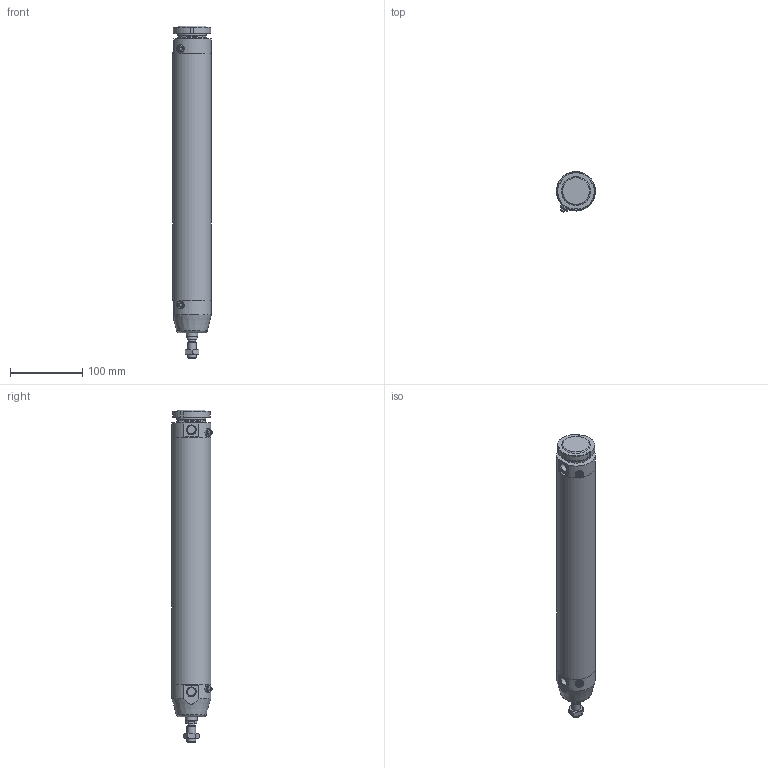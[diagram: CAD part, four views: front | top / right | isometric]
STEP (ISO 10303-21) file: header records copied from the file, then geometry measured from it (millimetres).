
FILE_DESCRIPTION(/* description */ (''),/* implementation_level */ '2;1');
FILE_NAME(/* name */ 'I:\Area Tecnica\Documenti\A-Manieri\_Inventor\12X\12X#B_###_####_#_#\12XBB_050_0300_#_#.stp',/* time_stamp */ '2015-04-28T14:29:12+02:00',/* author */ ('maniean1'),/* organization */ ('Pneumax S.p.A.'),/* preprocessor_version */ 'ST-DEVELOPER v15.2',/* originating_system */ 'Autodesk Inventor 2014',/* authorisation */ '');
FILE_SCHEMA (('AUTOMOTIVE_DESIGN { 1 0 10303 214 3 1 1 }'));
Length unit declared in the file: millimetre
Products named in the file (7): C1250_619-0300; 12X50_614; S12X50_0300; 12X_50_11; 12X50_621; G12X_050_05; 12XBB_050_0300_#_#
Bounding box: 54 x 55.88 x 460 mm (x, y, z)
Volume: 425884.9 mm3; surface area: 170479.7 mm2
Topology: 6 solids, 6 shells, 98 faces, 217 edges, 140 vertices
Faces by surface type: plane 52, cylinder 24, cone 19, torus 3
Full cylindrical faces by diameter (mm): 5 x2, 10.2 x1, 11 x2, 11.4 x2, 12 x2, 14 x1, 15.6 x1, 16 x1, 38.2 x1, 40 x3, 50 x2, 54 x3
Entity records: 2646 total; most frequent: CARTESIAN_POINT 539, DIRECTION 439, ORIENTED_EDGE 346, AXIS2_PLACEMENT_3D 186, EDGE_CURVE 173, EDGE_LOOP 150, VERTEX_POINT 131, ADVANCED_FACE 98
